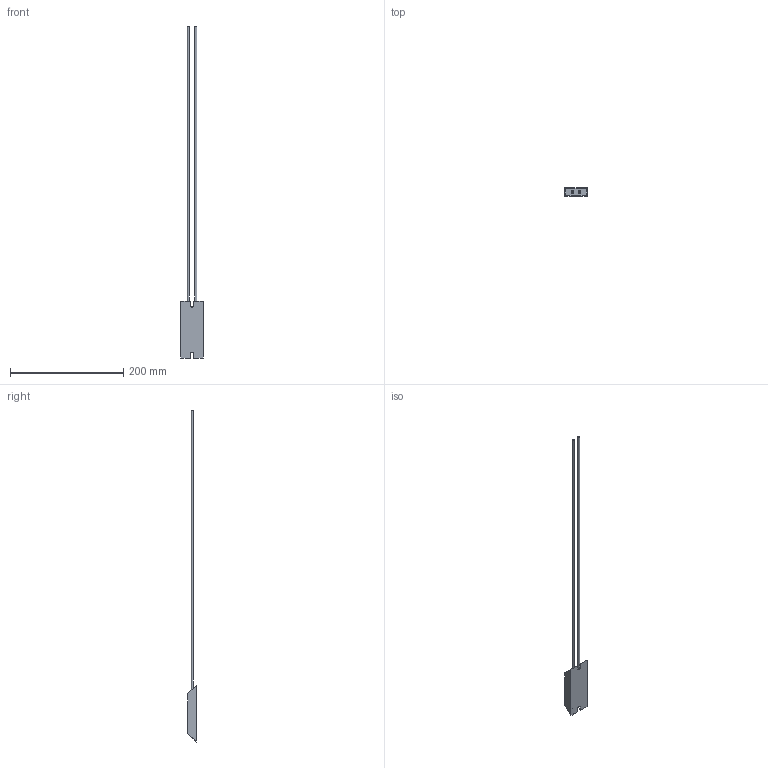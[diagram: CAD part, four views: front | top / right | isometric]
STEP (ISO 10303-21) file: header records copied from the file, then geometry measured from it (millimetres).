
FILE_DESCRIPTION(/* description */ (''),/* implementation_level */ '2;1');
FILE_NAME(/* name */ 'C:\_Vault\Dati\CATALOGO\RFD\RFDV050.stp',/* time_stamp */ '2014-03-24T18:31:57+01:00',/* author */ ('stefano'),/* organization */ (''),/* preprocessor_version */ 'ST-DEVELOPER v15.2',/* originating_system */ 'Autodesk Inventor 2014',/* authorisation */ '');
FILE_SCHEMA (('AUTOMOTIVE_DESIGN { 1 0 10303 214 3 1 1 }'));
Length unit declared in the file: millimetre
Products named in the file (1): RFDV050
Bounding box: 40 x 15 x 586.6 mm (x, y, z)
Volume: 58092 mm3; surface area: 24269.9 mm2
Topology: 1 solids, 1 shells, 28 faces, 66 edges, 44 vertices
Faces by surface type: plane 22, cylinder 6
Full cylindrical faces by diameter (mm): 2 x2, 4 x2
Entity records: 866 total; most frequent: CARTESIAN_POINT 135, DIRECTION 132, ORIENTED_EDGE 124, EDGE_CURVE 62, LINE 50, VECTOR 50, VERTEX_POINT 44, AXIS2_PLACEMENT_3D 41
